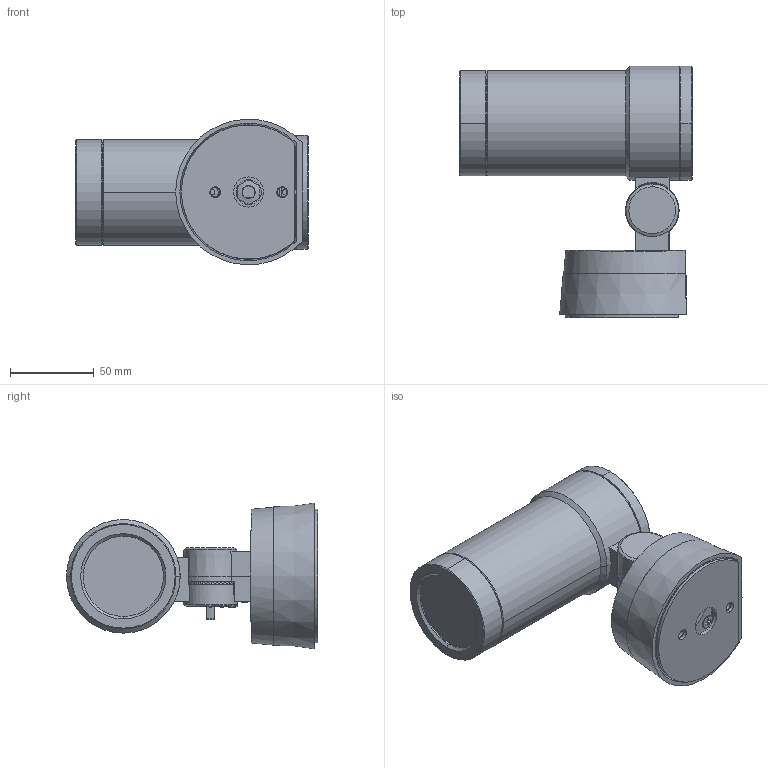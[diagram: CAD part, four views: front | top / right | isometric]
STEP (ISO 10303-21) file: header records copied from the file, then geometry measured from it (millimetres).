
FILE_DESCRIPTION((''),'2;1');
FILE_NAME('7TM_ASM','2024-09-02T',('C028'),(''),'CREO PARAMETRIC BY PTC INC, 2014190','CREO PARAMETRIC BY PTC INC, 2014190','');
FILE_SCHEMA(('CONFIG_CONTROL_DESIGN'));
Length unit declared in the file: millimetre
Products named in the file (27): PRT0025_1_1_1_19_1; 0_GB_2_1_1_58_1; ADMI1FE8623B8EUW_5_1; 0_GB_COVER_2_1_1_1; PRT0033_1_1_1_1; SCREW-M12_2_1_1_1; 3TO__1; M6_18_2; M4_L15_CHENG_TOU_1_4_1; FPM_1; ASM0001_ASM_ASM_1_ASM_1_ASM_1_A_ASM; COVER_B_L_2_1_1_1_5; PRT0025_1_1_1_1_5; PRT0030_1_1_1_5; PRT0031_1_1_1_5; ASM0005_ASM_ASM_1_ASM_1_ASM_1_A_ASM; PRT0032_1_1_1_5; PRT0033_1_1_1_5; PRT0034_1_1_1_5; ASM0004_ASM_ASM_1_ASM_1_ASM_1_A_ASM; PRT0035_1_1_1_5; PRT0036_1_1_1_5; 3TO_____1_1_1_5; PRT0028_1_1_1_5; PRT0025_1_1_1_19; ASM0003_ASM_ASM_1_ASM_1_ASM_1_A_ASM; 7TM_ASM
Assembly tree (34 placements, depth 5):
  7TM_ASM
    ASM0001_ASM_ASM_1_ASM_1_ASM_1_A_ASM
      PRT0025_1_1_1_19_1
      0_GB_2_1_1_58_1
      ADMI1FE8623B8EUW_5_1
      0_GB_COVER_2_1_1_1
      PRT0033_1_1_1_1  x4
      SCREW-M12_2_1_1_1
      3TO__1
      M6_18_2  x2
      M4_L15_CHENG_TOU_1_4_1  x4
      FPM_1
    ASM0003_ASM_ASM_1_ASM_1_ASM_1_A_ASM
      COVER_B_L_2_1_1_1_5
      PRT0025_1_1_1_1_5
      ASM0004_ASM_ASM_1_ASM_1_ASM_1_A_ASM
        ASM0005_ASM_ASM_1_ASM_1_ASM_1_A_ASM
          PRT0030_1_1_1_5
          PRT0031_1_1_1_5
        PRT0032_1_1_1_5
        PRT0033_1_1_1_5  x2
        PRT0034_1_1_1_5
      PRT0035_1_1_1_5
      PRT0036_1_1_1_5
      3TO_____1_1_1_5
      PRT0028_1_1_1_5
      PRT0025_1_1_1_19
Bounding box: 138.8 x 150.12 x 87.05 mm (x, y, z)
Volume: 269842.5 mm3; surface area: 182732.9 mm2
Topology: 30 solids, 30 shells, 1952 faces, 5295 edges, 3484 vertices
Faces by surface type: plane 837, cylinder 581, bspline 267, cone 203, torus 53, sphere 11
Entity records: 88160 total; most frequent: CARTESIAN_POINT 47044, ORIENTED_EDGE 8898, DIRECTION 7872, EDGE_CURVE 4449, VERTEX_POINT 2910, AXIS2_PLACEMENT_3D 2812, VECTOR 2248, LINE 2248
